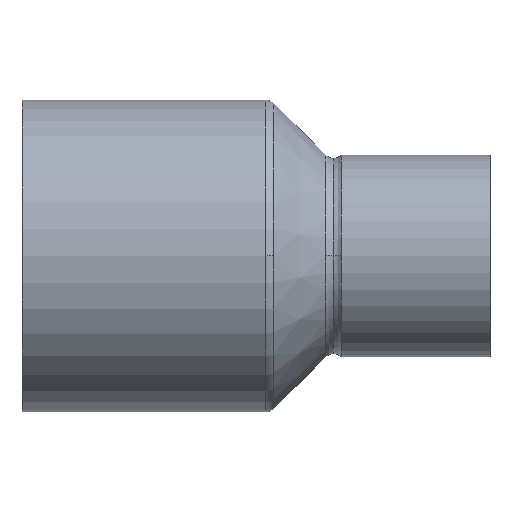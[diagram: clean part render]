
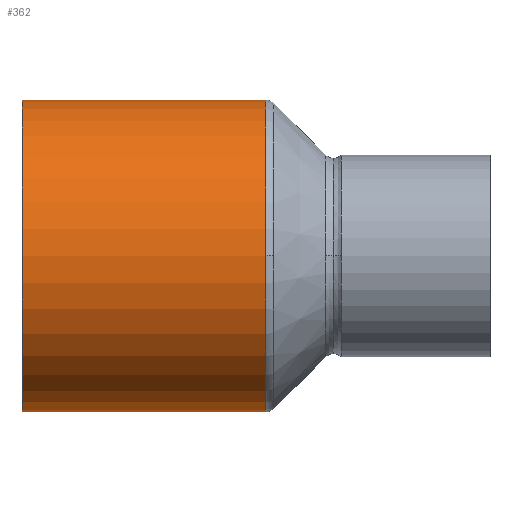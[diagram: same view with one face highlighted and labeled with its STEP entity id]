
A CAD part, top view. The second image highlights one B-rep face of the part: STEP entity #362.
In plain terms, the highlighted cylindrical face has radius 14 mm (diameter 28 mm), a partial arc.
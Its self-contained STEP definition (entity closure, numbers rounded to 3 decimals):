
#312=CARTESIAN_POINT('',(10.937,0.0,0.0));
#313=DIRECTION('',(1.0,0.0,0.0));
#314=DIRECTION('',(0.0,1.0,0.0));
#315=AXIS2_PLACEMENT_3D('',#312,#313,#314);
#316=CYLINDRICAL_SURFACE('',#315,14.0);
#317=CARTESIAN_POINT('',(0.,14.,0.0));
#318=VERTEX_POINT('',#317);
#319=CARTESIAN_POINT('',(21.873,14.0,0.0));
#320=VERTEX_POINT('',#319);
#321=CARTESIAN_POINT('',(0.,14.,0.0));
#322=DIRECTION('',(1.0,0.0,0.0));
#323=VECTOR('',#322,21.873);
#324=LINE('',#321,#323);
#325=EDGE_CURVE('',#318,#320,#324,.T.);
#326=ORIENTED_EDGE('',*,*,#325,.F.);
#327=CARTESIAN_POINT('',(0.,-14.,0.));
#328=VERTEX_POINT('',#327);
#329=CARTESIAN_POINT('',(0.,0.0,0.0));
#330=DIRECTION('',(1.0,0.0,0.0));
#331=DIRECTION('',(0.0,1.0,0.0));
#332=AXIS2_PLACEMENT_3D('',#329,#330,#331);
#333=CIRCLE('',#332,14.);
#334=EDGE_CURVE('',#318,#328,#333,.T.);
#335=ORIENTED_EDGE('',*,*,#334,.T.);
#336=CARTESIAN_POINT('',(21.873,-14.0,0.));
#337=VERTEX_POINT('',#336);
#338=CARTESIAN_POINT('',(21.873,-14.0,0.));
#339=DIRECTION('',(-1.0,0.0,0.0));
#340=VECTOR('',#339,21.873);
#341=LINE('',#338,#340);
#342=EDGE_CURVE('',#337,#328,#341,.T.);
#343=ORIENTED_EDGE('',*,*,#342,.F.);
#344=CARTESIAN_POINT('',(21.873,0.,14.0));
#345=VERTEX_POINT('',#344);
#346=CARTESIAN_POINT('',(21.873,0.0,0.0));
#347=DIRECTION('',(1.0,0.0,0.0));
#348=DIRECTION('',(0.0,1.0,0.0));
#349=AXIS2_PLACEMENT_3D('',#346,#347,#348);
#350=CIRCLE('',#349,14.0);
#351=EDGE_CURVE('',#345,#337,#350,.T.);
#352=ORIENTED_EDGE('',*,*,#351,.F.);
#353=CARTESIAN_POINT('',(21.873,0.0,0.0));
#354=DIRECTION('',(1.0,0.0,0.0));
#355=DIRECTION('',(0.0,1.0,0.0));
#356=AXIS2_PLACEMENT_3D('',#353,#354,#355);
#357=CIRCLE('',#356,14.0);
#358=EDGE_CURVE('',#320,#345,#357,.T.);
#359=ORIENTED_EDGE('',*,*,#358,.F.);
#360=EDGE_LOOP('',(#326,#335,#343,#352,#359));
#361=FACE_OUTER_BOUND('',#360,.T.);
#362=ADVANCED_FACE('',(#361),#316,.T.);
